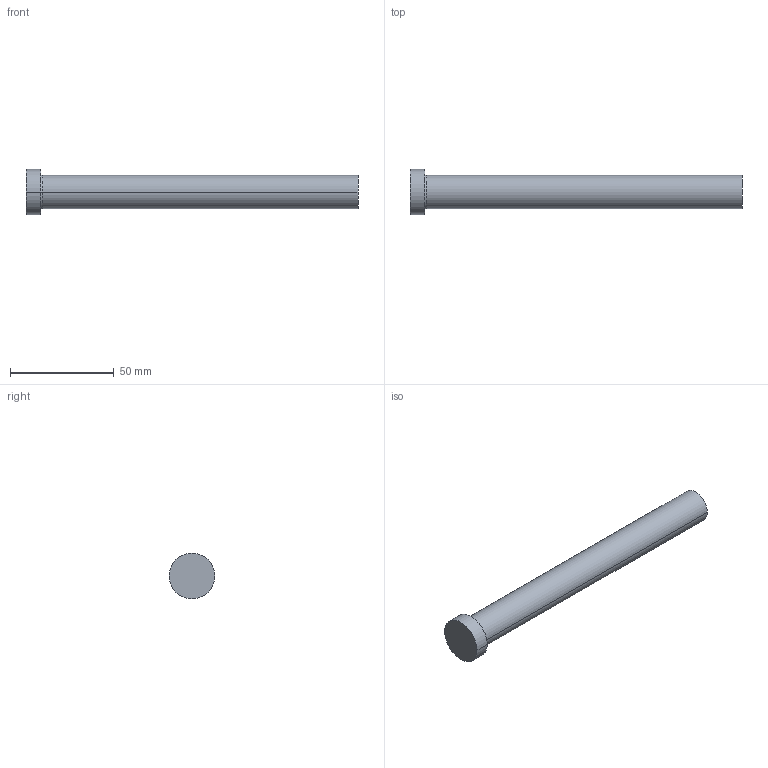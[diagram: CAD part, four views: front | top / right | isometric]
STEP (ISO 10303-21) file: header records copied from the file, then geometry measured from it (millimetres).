
FILE_DESCRIPTION (( 'STEP AP214' ), '1' );
FILE_NAME ('A-16x160.STEP', '2020-05-29T16:18:47', ( 'August' ), ( '' ), 'SwSTEP 2.0', 'SolidWorks 2018', '' );
FILE_SCHEMA (( 'AUTOMOTIVE_DESIGN' ));
Length unit declared in the file: millimetre
Products named in the file (1): A-16x160
Bounding box: 160 x 22 x 22 mm (x, y, z)
Volume: 33430.5 mm3; surface area: 8917.7 mm2
Topology: 1 solids, 1 shells, 9 faces, 16 edges, 10 vertices
Faces by surface type: cylinder 4, plane 3, torus 2
Entity records: 260 total; most frequent: DIRECTION 48, CARTESIAN_POINT 36, ORIENTED_EDGE 32, AXIS2_PLACEMENT_3D 22, EDGE_CURVE 16, CIRCLE 12, EDGE_LOOP 10, VERTEX_POINT 10
